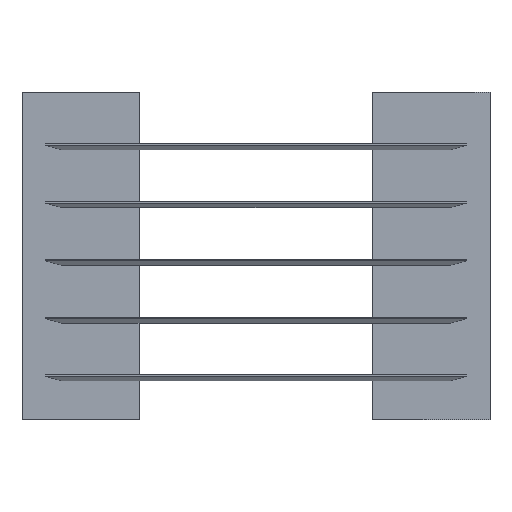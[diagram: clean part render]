
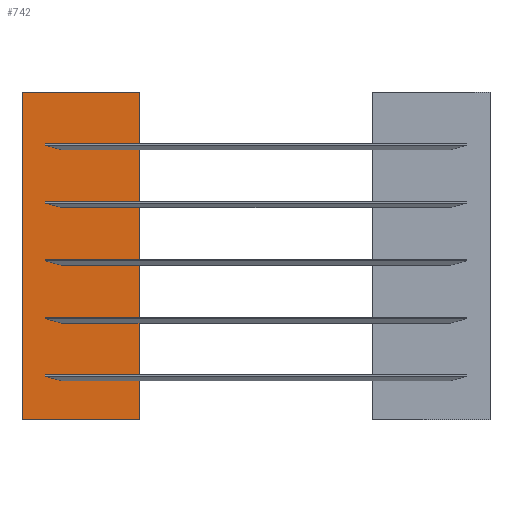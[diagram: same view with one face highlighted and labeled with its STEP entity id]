
A CAD part, top view. The second image highlights one B-rep face of the part: STEP entity #742.
In plain terms, the highlighted planar face has unit normal (0, 0, 1).
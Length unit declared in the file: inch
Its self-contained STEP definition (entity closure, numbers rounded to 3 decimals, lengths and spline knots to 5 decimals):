
#184=FACE_OUTER_BOUND('',#221,.T.);
#221=EDGE_LOOP('',(#562,#563,#564,#565));
#254=LINE('',#1111,#333);
#259=LINE('',#1120,#338);
#263=LINE('',#1128,#342);
#264=LINE('',#1130,#343);
#333=VECTOR('',#922,0.3937);
#338=VECTOR('',#929,0.3937);
#342=VECTOR('',#937,0.3937);
#343=VECTOR('',#940,0.3937);
#412=VERTEX_POINT('',#1108);
#413=VERTEX_POINT('',#1110);
#416=VERTEX_POINT('',#1118);
#418=VERTEX_POINT('',#1126);
#464=EDGE_CURVE('',#413,#412,#254,.T.);
#469=EDGE_CURVE('',#412,#416,#259,.T.);
#473=EDGE_CURVE('',#416,#418,#263,.T.);
#474=EDGE_CURVE('',#418,#413,#264,.T.);
#562=ORIENTED_EDGE('',*,*,#473,.T.);
#563=ORIENTED_EDGE('',*,*,#474,.T.);
#564=ORIENTED_EDGE('',*,*,#464,.T.);
#565=ORIENTED_EDGE('',*,*,#469,.T.);
#705=PLANE('',#867);
#742=ADVANCED_FACE('',(#184),#705,.T.);
#867=AXIS2_PLACEMENT_3D('',#1131,#941,#942);
#922=DIRECTION('',(0.,-1.,0.));
#929=DIRECTION('',(1.,0.,0.));
#937=DIRECTION('',(0.,1.,0.));
#940=DIRECTION('',(-1.,0.,0.));
#941=DIRECTION('center_axis',(0.,0.,1.));
#942=DIRECTION('ref_axis',(1.,0.,0.));
#1108=CARTESIAN_POINT('',(0.,0.,0.75));
#1110=CARTESIAN_POINT('',(0.,84.,0.75));
#1111=CARTESIAN_POINT('',(0.,84.,0.75));
#1118=CARTESIAN_POINT('',(30.,0.,0.75));
#1120=CARTESIAN_POINT('',(0.,0.,0.75));
#1126=CARTESIAN_POINT('',(30.,84.,0.75));
#1128=CARTESIAN_POINT('',(30.,0.,0.75));
#1130=CARTESIAN_POINT('',(30.,84.,0.75));
#1131=CARTESIAN_POINT('Origin',(15.,42.,0.75));
